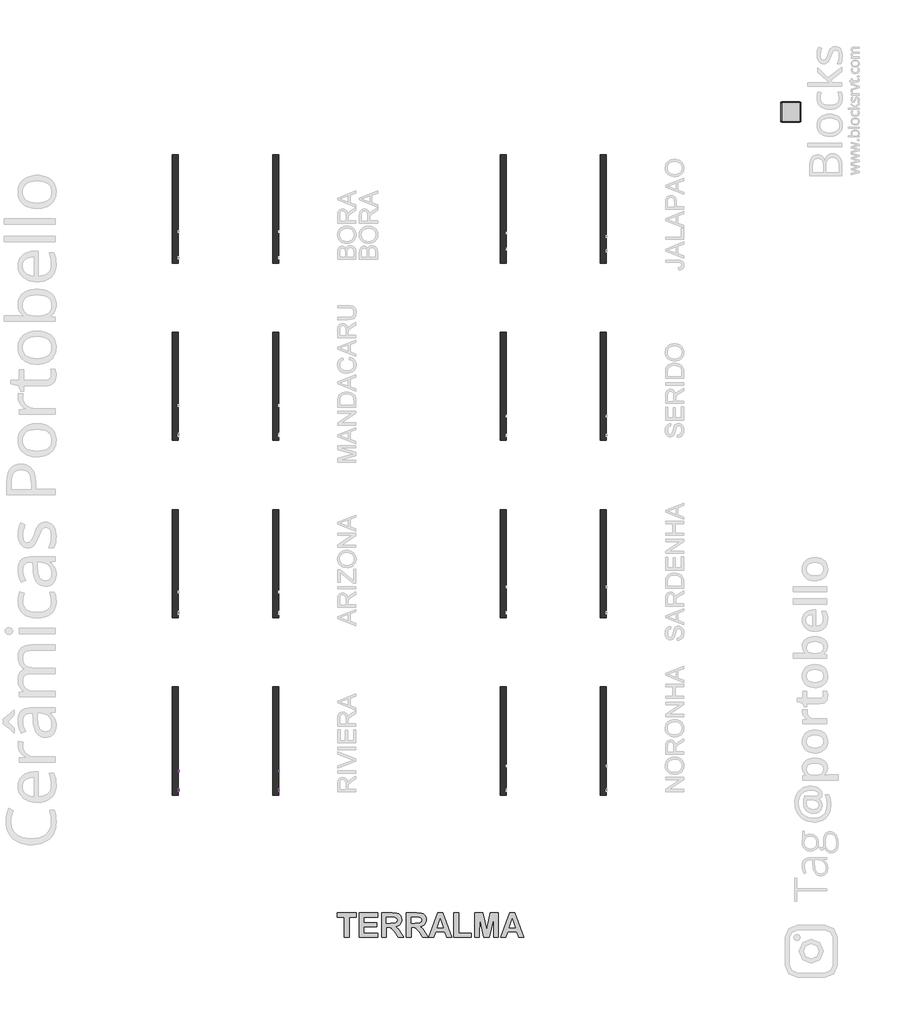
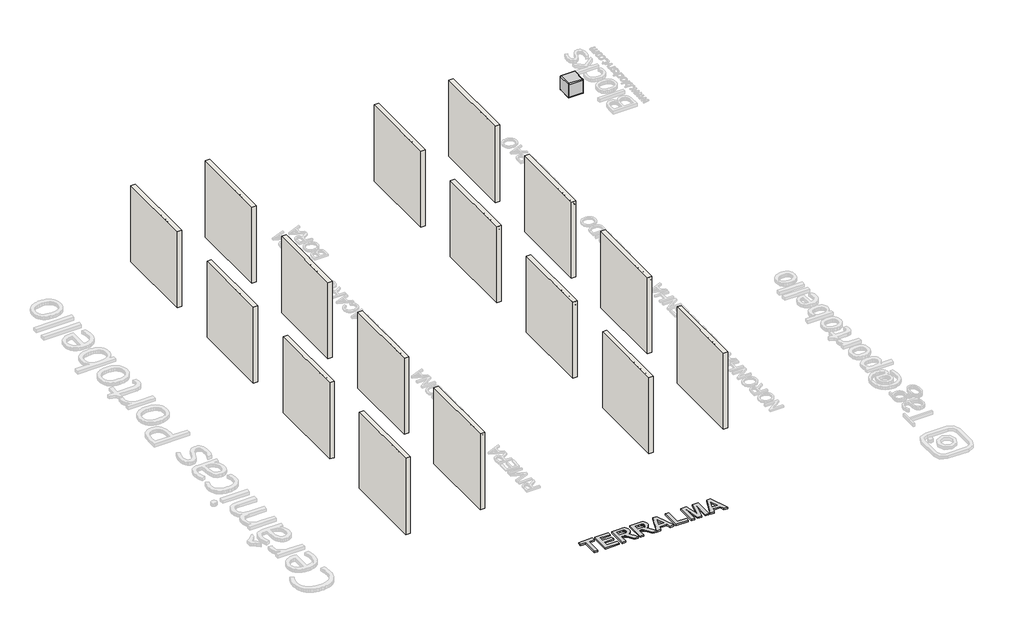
# One storey, part 1 of 11: 16 walls, 5 proxies, 1 furniture element.
"""IFC4 building model written with IfcOpenShell, lengths in millimetres."""

from ifc_helpers import new_model, si_unit, frame, origin, origin_with_axes, place, context, project, spatial, polyline, outline, extrude, transform, mapped, element, save
from components import branco_22256ad2

model = new_model("IFC4")

# Units and contexts
model_context = context("Model", 3, world=origin())
ifc_project = project(units=[si_unit("LENGTHUNIT", "METRE", prefix="MILLI")], contexts=[model_context])

# Site, building, storey
site = spatial("IfcSite", under=ifc_project)
building = spatial("IfcBuilding", under=site)
storey = spatial("IfcBuildingStorey", under=building, Name="PORTOBELLO - SHOWROOM", Elevation=0.0)

# Proxies
placement = place(None, origin())
element("IfcBuildingElementProxy", 1, Name="10mm Arial", ObjectType="10mm Arial", at=placement, inside=storey, context=model_context, shape_type="SweptSolid", body=[
    extrude(outline(polyline([(-7180.0509159, 2478.2261649), (-7180.0509159, 2578.6824751), (-7136.7634678, 2578.6824751), (-7116.6648481, 2575.9724111), (-7105.6774392, 2566.3829537), (-7101.5694236, 2551.1894273), (-7103.2708778, 2541.2934016), (-7108.3752405, 2533.0896331), (-7117.0357958, 2527.0747625), (-7129.4058279, 2523.7454305), (-7122.2689172, 2518.3743533), (-7112.0908486, 2505.4494326), (-7095.3399551, 2478.2261649), (-7109.9326076, 2478.2261649), (-7123.0046812, 2499.0482859), (-7132.4469857, 2512.8315979), (-7139.0811243, 2519.3431093), (-7145.0530754, 2521.7343422), (-7152.3371389, 2522.1758006), (-7167.4938771, 2522.1758006), (-7167.4938771, 2478.2261649), (-7180.0509159, 2478.2261649)]), holes=[polyline([(-7167.4938771, 2534.7328394), (-7139.3876927, 2534.7328394), (-7125.0525576, 2536.5109357), (-7116.9101028, 2542.2008439), (-7114.1264623, 2550.7234435), (-7119.4362258, 2561.7844288), (-7136.2239075, 2566.1254363), (-7167.4938771, 2566.1254363), (-7167.4938771, 2534.7328394)])]), frame((-24947.8341365, 0.0, 0.0), z_axis=(1.0, 0.0, 0.0), x_axis=(0.0, 1.0, 0.0)), (0.0, 0.0, 1.0), 20.0),
    extrude(outline(polyline([(-24927.8341365, -7068.6071968), (-24927.8341365, -7081.1642356), (-24947.8341365, -7081.1642356), (-24947.8341365, -7068.6071968), (-24927.8341365, -7068.6071968)])), frame((0.0, 0.0, 2566.1254363), z_axis=(0.0, 0.0, 1.0), x_axis=(1.0, 0.0, 0.0)), (0.0, 0.0, 1.0), 12.5570388),
    extrude(outline(polyline([(-24927.8341365, -7068.6071968), (-24927.8341365, -7081.1642356), (-24947.8341365, -7081.1642356), (-24947.8341365, -7068.6071968), (-24927.8341365, -7068.6071968)])), frame((0.0, 0.0, 2478.2261649), z_axis=(0.0, 0.0, 1.0), x_axis=(1.0, 0.0, 0.0)), (0.0, 0.0, 1.0), 73.7726028),
    extrude(outline(polyline([(-7031.6718445, 2478.2261649), (-7057.6197879, 2551.9987677), (-7044.3269851, 2551.9987677), (-7028.6061612, 2507.8038773), (-7023.8727462, 2492.9414447), (-7019.2374331, 2506.9700115), (-7003.4185073, 2551.9987677), (-6990.1257045, 2551.9987677), (-7015.7548168, 2478.2261649), (-7031.6718445, 2478.2261649)])), frame((-24947.8341365, 0.0, 0.0), z_axis=(1.0, 0.0, 0.0), x_axis=(0.0, 1.0, 0.0)), (0.0, 0.0, 1.0), 20.0),
    extrude(outline(polyline([(-24927.8341365, -6966.5812568), (-24927.8341365, -6979.1382956), (-24947.8341365, -6979.1382956), (-24947.8341365, -6966.5812568), (-24927.8341365, -6966.5812568)])), frame((0.0, 0.0, 2566.1254363), z_axis=(0.0, 0.0, 1.0), x_axis=(1.0, 0.0, 0.0)), (0.0, 0.0, 1.0), 12.5570388),
    extrude(outline(polyline([(-24927.8341365, -6966.5812568), (-24927.8341365, -6979.1382956), (-24947.8341365, -6979.1382956), (-24947.8341365, -6966.5812568), (-24927.8341365, -6966.5812568)])), frame((0.0, 0.0, 2478.2261649), z_axis=(0.0, 0.0, 1.0), x_axis=(1.0, 0.0, 0.0)), (0.0, 0.0, 1.0), 73.7726028),
    extrude(outline(polyline([(-6896.0950665, 2500.2009828), (-6883.7832824, 2498.6313529), (-6888.2193262, 2489.3545953), (-6895.2979889, 2482.4200197), (-6904.8598551, 2478.0974062), (-6916.7455092, 2476.6565351), (-6931.4791831, 2479.1428042), (-6942.8160799, 2486.6016117), (-6950.0449611, 2498.5485795), (-6952.4545882, 2514.4993297), (-6950.0204357, 2530.9865744), (-6942.7179781, 2543.3167526), (-6931.5343654, 2551.0054863), (-6917.4567477, 2553.5683975), (-6903.8175228, 2551.0116177), (-6892.9190186, 2543.3412781), (-6885.7729109, 2531.0356253), (-6883.390875, 2514.5729061), (-6883.4644514, 2511.1883917), (-6939.8975494, 2511.1883917), (-6937.72398, 2501.7890067), (-6932.6747996, 2494.8789566), (-6925.3876704, 2490.6299195), (-6916.5002545, 2489.2135739), (-6904.1884704, 2491.8377988), (-6896.0950665, 2500.2009828)]), holes=[polyline([(-6939.8975494, 2523.7454305), (-6895.9479137, 2523.7454305), (-6900.9756343, 2535.1252469), (-6908.296486, 2539.5398308), (-6917.5057987, 2541.0113588), (-6932.9691052, 2536.314732), (-6937.8343446, 2530.8240932), (-6939.8975494, 2523.7454305)])]), frame((-24947.8341365, 0.0, 0.0), z_axis=(1.0, 0.0, 0.0), x_axis=(0.0, 1.0, 0.0)), (0.0, 0.0, 1.0), 20.0),
    extrude(outline(polyline([(-6870.8338362, 2478.2261649), (-6870.8338362, 2551.9987677), (-6859.8464273, 2551.9987677), (-6859.8464273, 2541.0849352), (-6852.047329, 2551.1403764), (-6844.1991797, 2553.5683975), (-6831.59309, 2549.6933739), (-6835.7869448, 2538.4361848), (-6844.6161127, 2541.0113588), (-6851.7162352, 2538.5342867), (-6856.2411837, 2531.6671561), (-6858.2767974, 2517.0009272), (-6858.2767974, 2478.2261649), (-6870.8338362, 2478.2261649)])), frame((-24947.8341365, 0.0, 0.0), z_axis=(1.0, 0.0, 0.0), x_axis=(0.0, 1.0, 0.0)), (0.0, 0.0, 1.0), 20.0),
    extrude(outline(polyline([(-6776.6560454, 2487.643944), (-6788.8329395, 2479.1336072), (-6802.2851578, 2476.6565351), (-6812.7789917, 2478.1464572), (-6820.519842, 2482.6162234), (-6825.2931109, 2489.4036462), (-6826.8842005, 2497.846538), (-6824.4807048, 2507.7793519), (-6818.1653972, 2514.989839), (-6809.3730175, 2519.1101173), (-6798.5082359, 2520.9985782), (-6776.7296218, 2525.3150603), (-6776.6560454, 2528.1109635), (-6780.1141362, 2537.3815898), (-6793.9955501, 2541.0113588), (-6806.6997417, 2538.5956003), (-6812.7575319, 2530.0239499), (-6825.3145707, 2531.5935797), (-6819.8821799, 2543.8563129), (-6808.9438219, 2551.0422745), (-6792.3768694, 2553.5683975), (-6777.1588175, 2551.3365801), (-6768.5626415, 2545.732511), (-6764.7121433, 2537.2099115), (-6764.0990067, 2526.2225026), (-6764.0990067, 2510.5997805), (-6763.4613445, 2488.7843782), (-6760.959747, 2478.2261649), (-6773.5167857, 2478.2261649), (-6776.6560454, 2487.643944)]), holes=[polyline([(-6776.6560454, 2512.7580215), (-6796.9140806, 2508.9075233), (-6807.7175486, 2506.8719096), (-6812.6103791, 2503.5609717), (-6814.3271617, 2498.7294548), (-6810.5870281, 2491.9359006), (-6799.6118819, 2489.2135739), (-6786.9076904, 2492.2179435), (-6778.7161846, 2499.4897443), (-6776.7296218, 2509.2018289), (-6776.6560454, 2512.7580215)])]), frame((-24947.8341365, 0.0, 0.0), z_axis=(1.0, 0.0, 0.0), x_axis=(0.0, 1.0, 0.0)), (0.0, 0.0, 1.0), 20.0),
])
element("IfcBuildingElementProxy", 2, Name="10mm Arial", ObjectType="10mm Arial", at=placement, inside=storey, context=model_context, shape_type="SweptSolid", body=[
    extrude(outline(polyline([(-7180.0509159, 2478.2261649), (-7180.0509159, 2578.6824751), (-7136.7634678, 2578.6824751), (-7116.6648481, 2575.9724111), (-7105.6774392, 2566.3829537), (-7101.5694236, 2551.1894273), (-7103.2708778, 2541.2934016), (-7108.3752405, 2533.0896331), (-7117.0357958, 2527.0747625), (-7129.4058279, 2523.7454305), (-7122.2689172, 2518.3743533), (-7112.0908486, 2505.4494326), (-7095.3399551, 2478.2261649), (-7109.9326076, 2478.2261649), (-7123.0046812, 2499.0482859), (-7132.4469857, 2512.8315979), (-7139.0811243, 2519.3431093), (-7145.0530754, 2521.7343422), (-7152.3371389, 2522.1758006), (-7167.4938771, 2522.1758006), (-7167.4938771, 2478.2261649), (-7180.0509159, 2478.2261649)]), holes=[polyline([(-7167.4938771, 2534.7328394), (-7139.3876927, 2534.7328394), (-7125.0525576, 2536.5109357), (-7116.9101028, 2542.2008439), (-7114.1264623, 2550.7234435), (-7119.4362258, 2561.7844288), (-7136.2239075, 2566.1254363), (-7167.4938771, 2566.1254363), (-7167.4938771, 2534.7328394)])]), frame((-27447.8341365, 0.0, 0.0), z_axis=(1.0, 0.0, 0.0), x_axis=(0.0, 1.0, 0.0)), (0.0, 0.0, 1.0), 20.0),
    extrude(outline(polyline([(-27427.8341365, -7068.6071968), (-27427.8341365, -7081.1642356), (-27447.8341365, -7081.1642356), (-27447.8341365, -7068.6071968), (-27427.8341365, -7068.6071968)])), frame((0.0, 0.0, 2566.1254363), z_axis=(0.0, 0.0, 1.0), x_axis=(1.0, 0.0, 0.0)), (0.0, 0.0, 1.0), 12.5570388),
    extrude(outline(polyline([(-27427.8341365, -7068.6071968), (-27427.8341365, -7081.1642356), (-27447.8341365, -7081.1642356), (-27447.8341365, -7068.6071968), (-27427.8341365, -7068.6071968)])), frame((0.0, 0.0, 2478.2261649), z_axis=(0.0, 0.0, 1.0), x_axis=(1.0, 0.0, 0.0)), (0.0, 0.0, 1.0), 73.7726028),
    extrude(outline(polyline([(-7031.6718445, 2478.2261649), (-7057.6197879, 2551.9987677), (-7044.3269851, 2551.9987677), (-7028.6061612, 2507.8038773), (-7023.8727462, 2492.9414447), (-7019.2374331, 2506.9700115), (-7003.4185073, 2551.9987677), (-6990.1257045, 2551.9987677), (-7015.7548168, 2478.2261649), (-7031.6718445, 2478.2261649)])), frame((-27447.8341365, 0.0, 0.0), z_axis=(1.0, 0.0, 0.0), x_axis=(0.0, 1.0, 0.0)), (0.0, 0.0, 1.0), 20.0),
    extrude(outline(polyline([(-27427.8341365, -6966.5812568), (-27427.8341365, -6979.1382956), (-27447.8341365, -6979.1382956), (-27447.8341365, -6966.5812568), (-27427.8341365, -6966.5812568)])), frame((0.0, 0.0, 2566.1254363), z_axis=(0.0, 0.0, 1.0), x_axis=(1.0, 0.0, 0.0)), (0.0, 0.0, 1.0), 12.5570388),
    extrude(outline(polyline([(-27427.8341365, -6966.5812568), (-27427.8341365, -6979.1382956), (-27447.8341365, -6979.1382956), (-27447.8341365, -6966.5812568), (-27427.8341365, -6966.5812568)])), frame((0.0, 0.0, 2478.2261649), z_axis=(0.0, 0.0, 1.0), x_axis=(1.0, 0.0, 0.0)), (0.0, 0.0, 1.0), 73.7726028),
    extrude(outline(polyline([(-6896.0950665, 2500.2009828), (-6883.7832824, 2498.6313529), (-6888.2193262, 2489.3545953), (-6895.2979889, 2482.4200197), (-6904.8598551, 2478.0974062), (-6916.7455092, 2476.6565351), (-6931.4791831, 2479.1428042), (-6942.8160799, 2486.6016117), (-6950.0449611, 2498.5485795), (-6952.4545882, 2514.4993297), (-6950.0204357, 2530.9865744), (-6942.7179781, 2543.3167526), (-6931.5343654, 2551.0054863), (-6917.4567477, 2553.5683975), (-6903.8175228, 2551.0116177), (-6892.9190186, 2543.3412781), (-6885.7729109, 2531.0356253), (-6883.390875, 2514.5729061), (-6883.4644514, 2511.1883917), (-6939.8975494, 2511.1883917), (-6937.72398, 2501.7890067), (-6932.6747996, 2494.8789566), (-6925.3876704, 2490.6299195), (-6916.5002545, 2489.2135739), (-6904.1884704, 2491.8377988), (-6896.0950665, 2500.2009828)]), holes=[polyline([(-6939.8975494, 2523.7454305), (-6895.9479137, 2523.7454305), (-6900.9756343, 2535.1252469), (-6908.296486, 2539.5398308), (-6917.5057987, 2541.0113588), (-6932.9691052, 2536.314732), (-6937.8343446, 2530.8240932), (-6939.8975494, 2523.7454305)])]), frame((-27447.8341365, 0.0, 0.0), z_axis=(1.0, 0.0, 0.0), x_axis=(0.0, 1.0, 0.0)), (0.0, 0.0, 1.0), 20.0),
    extrude(outline(polyline([(-6870.8338362, 2478.2261649), (-6870.8338362, 2551.9987677), (-6859.8464273, 2551.9987677), (-6859.8464273, 2541.0849352), (-6852.047329, 2551.1403764), (-6844.1991797, 2553.5683975), (-6831.59309, 2549.6933739), (-6835.7869448, 2538.4361848), (-6844.6161127, 2541.0113588), (-6851.7162352, 2538.5342867), (-6856.2411837, 2531.6671561), (-6858.2767974, 2517.0009272), (-6858.2767974, 2478.2261649), (-6870.8338362, 2478.2261649)])), frame((-27447.8341365, 0.0, 0.0), z_axis=(1.0, 0.0, 0.0), x_axis=(0.0, 1.0, 0.0)), (0.0, 0.0, 1.0), 20.0),
    extrude(outline(polyline([(-6776.6560454, 2487.643944), (-6788.8329395, 2479.1336072), (-6802.2851578, 2476.6565351), (-6812.7789917, 2478.1464572), (-6820.519842, 2482.6162234), (-6825.2931109, 2489.4036462), (-6826.8842005, 2497.846538), (-6824.4807048, 2507.7793519), (-6818.1653972, 2514.989839), (-6809.3730175, 2519.1101173), (-6798.5082359, 2520.9985782), (-6776.7296218, 2525.3150603), (-6776.6560454, 2528.1109635), (-6780.1141362, 2537.3815898), (-6793.9955501, 2541.0113588), (-6806.6997417, 2538.5956003), (-6812.7575319, 2530.0239499), (-6825.3145707, 2531.5935797), (-6819.8821799, 2543.8563129), (-6808.9438219, 2551.0422745), (-6792.3768694, 2553.5683975), (-6777.1588175, 2551.3365801), (-6768.5626415, 2545.732511), (-6764.7121433, 2537.2099115), (-6764.0990067, 2526.2225026), (-6764.0990067, 2510.5997805), (-6763.4613445, 2488.7843782), (-6760.959747, 2478.2261649), (-6773.5167857, 2478.2261649), (-6776.6560454, 2487.643944)]), holes=[polyline([(-6776.6560454, 2512.7580215), (-6796.9140806, 2508.9075233), (-6807.7175486, 2506.8719096), (-6812.6103791, 2503.5609717), (-6814.3271617, 2498.7294548), (-6810.5870281, 2491.9359006), (-6799.6118819, 2489.2135739), (-6786.9076904, 2492.2179435), (-6778.7161846, 2499.4897443), (-6776.7296218, 2509.2018289), (-6776.6560454, 2512.7580215)])]), frame((-27447.8341365, 0.0, 0.0), z_axis=(1.0, 0.0, 0.0), x_axis=(0.0, 1.0, 0.0)), (0.0, 0.0, 1.0), 20.0),
])
element("IfcBuildingElementProxy", 3, Name="10mm Arial Narrow", ObjectType="10mm Arial Narrow", at=placement, inside=storey, context=model_context, shape_type="SweptSolid", body=[
    extrude(outline(polyline([(-6702.9158568, 2478.2261649), (-6702.9158568, 2578.9447687), (-6671.6189721, 2578.9447687), (-6655.3232706, 2577.066448), (-6643.8502844, 2567.5860048), (-6639.560606, 2550.566896), (-6641.3469144, 2538.4910704), (-6646.7058396, 2528.8646766), (-6656.4496284, 2522.5634182), (-6671.3905277, 2520.4629988), (-6693.1688951, 2520.4629988), (-6693.1688951, 2478.2261649), (-6702.9158568, 2478.2261649)]), holes=[polyline([(-6693.1688951, 2531.834454), (-6670.1975402, 2531.834454), (-6654.3333448, 2536.3652682), (-6649.3075677, 2550.033859), (-6651.7823821, 2560.1996354), (-6657.760011, 2565.9995852), (-6670.4259846, 2567.5733134), (-6693.1688951, 2567.5733134), (-6693.1688951, 2531.834454)])]), frame((-24947.8341365, 0.0, 0.0), z_axis=(1.0, 0.0, 0.0), x_axis=(0.0, 1.0, 0.0)), (0.0, 0.0, 1.0), 20.0),
    extrude(outline(polyline([(-6631.438138, 2514.7772711), (-6629.4836691, 2531.3680467), (-6623.6202625, 2543.3201315), (-6614.7616958, 2550.5446861), (-6603.8217466, 2552.9528709), (-6593.008711, 2550.5446861), (-6584.1247616, 2543.3201315), (-6578.1852068, 2531.558417), (-6576.2053553, 2515.5387525), (-6578.1503056, 2498.3768659), (-6583.9851567, 2486.2344108), (-6592.8342049, 2479.0098562), (-6603.8217466, 2476.6016713), (-6614.6823748, 2479.0162019), (-6623.5568057, 2486.2597935), (-6629.4678049, 2498.218224), (-6631.438138, 2514.7772711)]), holes=[polyline([(-6621.6911763, 2514.8026538), (-6620.3871394, 2502.2509024), (-6616.4750289, 2493.3796444), (-6610.6338321, 2488.1063858), (-6603.5425368, 2486.348633), (-6596.8224636, 2488.12225), (-6591.1303903, 2493.4431012), (-6587.2468353, 2502.3302234), (-6585.9523169, 2514.8026538), (-6587.2563538, 2527.3163312), (-6591.1684644, 2536.1748979), (-6597.0096611, 2541.4481564), (-6604.1009565, 2543.2059093), (-6610.8686222, 2541.4386379), (-6616.551177, 2536.1368238), (-6620.4061765, 2527.2687386), (-6621.6911763, 2514.8026538)])]), frame((-24947.8341365, 0.0, 0.0), z_axis=(1.0, 0.0, 0.0), x_axis=(0.0, 1.0, 0.0)), (0.0, 0.0, 1.0), 20.0),
    extrude(outline(polyline([(-6504.7276365, 2486.348633), (-6503.1031429, 2476.6016713), (-6510.4641295, 2476.6016713), (-6518.7388938, 2478.7211278), (-6523.053955, 2484.5210777), (-6524.2215598, 2499.1669029), (-6524.2215598, 2541.5814157), (-6532.3440278, 2541.5814157), (-6532.3440278, 2544.8304029), (-6533.9685214, 2539.9569221), (-6541.5325698, 2541.5814157), (-6547.6117295, 2539.2588975), (-6551.4825932, 2532.7736144), (-6553.4624447, 2517.3663078), (-6553.4624447, 2478.2261649), (-6563.2094064, 2478.2261649), (-6563.2094064, 2551.3283773), (-6553.4624447, 2551.3283773), (-6553.4624447, 2541.6321811), (-6547.2182974, 2550.7191922), (-6540.8218538, 2552.9528709), (-6532.3440278, 2551.3283773), (-6524.2215598, 2551.3283773), (-6524.2215598, 2567.5733134), (-6514.4745981, 2575.6957815), (-6514.4745981, 2551.3283773), (-6504.7276365, 2551.3283773), (-6504.7276365, 2541.5814157), (-6514.4745981, 2541.5814157), (-6514.4745981, 2496.9332241), (-6513.6115859, 2488.9376697), (-6508.9919322, 2486.348633), (-6504.7276365, 2486.348633)])), frame((-24947.8341365, 0.0, 0.0), z_axis=(1.0, 0.0, 0.0), x_axis=(0.0, 1.0, 0.0)), (0.0, 0.0, 1.0), 20.0),
    extrude(outline(polyline([(-6498.229662, 2514.7772711), (-6496.2751932, 2531.3680467), (-6490.4117865, 2543.3201315), (-6481.5532198, 2550.5446861), (-6470.6132707, 2552.9528709), (-6459.8002351, 2550.5446861), (-6450.9162857, 2543.3201315), (-6444.9767309, 2531.558417), (-6442.9968793, 2515.5387525), (-6444.9418297, 2498.3768659), (-6450.7766808, 2486.2344108), (-6459.6257289, 2479.0098562), (-6470.6132707, 2476.6016713), (-6481.4738989, 2479.0162019), (-6490.3483298, 2486.2597935), (-6496.259329, 2498.218224), (-6498.229662, 2514.7772711)]), holes=[polyline([(-6488.4827004, 2514.8026538), (-6487.1786635, 2502.2509024), (-6483.2665529, 2493.3796444), (-6477.4253562, 2488.1063858), (-6470.3340608, 2486.348633), (-6463.6139877, 2488.12225), (-6457.9219144, 2493.4431012), (-6454.0383593, 2502.3302234), (-6452.743841, 2514.8026538), (-6454.0478778, 2527.3163312), (-6457.9599884, 2536.1748979), (-6463.8011852, 2541.4481564), (-6470.8924805, 2543.2059093), (-6477.6601463, 2541.4386379), (-6483.3427011, 2536.1368238), (-6487.1977006, 2527.2687386), (-6488.4827004, 2514.8026538)])]), frame((-24947.8341365, 0.0, 0.0), z_axis=(1.0, 0.0, 0.0), x_axis=(0.0, 1.0, 0.0)), (0.0, 0.0, 1.0), 20.0),
    extrude(outline(polyline([(-6420.2539688, 2478.2261649), (-6430.0009305, 2478.2261649), (-6430.0009305, 2578.9447687), (-6420.2539688, 2578.9447687), (-6420.2539688, 2543.5358846), (-6412.8549081, 2550.6176614), (-6403.6536747, 2552.9528709), (-6390.7719481, 2548.752032), (-6381.4945666, 2536.0226016), (-6378.017135, 2515.3356908), (-6379.949394, 2498.8813473), (-6385.746171, 2486.6786082), (-6394.1192933, 2479.1209056), (-6403.7805883, 2476.6016713), (-6413.1214266, 2479.2160907), (-6420.2539688, 2486.9832008), (-6420.2539688, 2478.2261649)]), holes=[polyline([(-6420.2539688, 2515.3356908), (-6418.1725864, 2498.0881376), (-6412.283797, 2489.3564844), (-6403.8313537, 2486.348633), (-6397.8886261, 2488.1381142), (-6392.6502688, 2493.5065579), (-6387.7640966, 2514.9295674), (-6392.4725898, 2536.3652682), (-6397.7172928, 2541.495749), (-6404.0344154, 2543.2059093), (-6410.0120443, 2541.416428), (-6415.3043398, 2536.0479843), (-6420.2539688, 2515.3356908)])]), frame((-24947.8341365, 0.0, 0.0), z_axis=(1.0, 0.0, 0.0), x_axis=(0.0, 1.0, 0.0)), (0.0, 0.0, 1.0), 20.0),
    extrude(outline(polyline([(-6326.0333395, 2500.9690755), (-6316.2863778, 2499.3445819), (-6319.9859082, 2489.4580153), (-6325.8048951, 2482.3381644), (-6333.5085484, 2478.0357946), (-6342.862078, 2476.6016713), (-6354.455632, 2479.0162019), (-6363.5997542, 2486.2597935), (-6369.539309, 2498.0659277), (-6371.5191605, 2514.168086), (-6369.5297904, 2530.8350097), (-6363.5616801, 2543.0155389), (-6354.5476443, 2550.4685379), (-6343.4204976, 2552.9528709), (-6332.7375485, 2550.5542046), (-6323.9900311, 2543.3582056), (-6318.1551801, 2531.618701), (-6316.2102297, 2515.5895179), (-6316.2863778, 2512.3405307), (-6361.7721989, 2512.3405307), (-6355.7691873, 2492.8973728), (-6349.8391511, 2487.9858179), (-6342.7351644, 2486.348633), (-6332.5566966, 2490.0037436), (-6326.0333395, 2500.9690755)]), holes=[polyline([(-6361.1122484, 2522.0874924), (-6326.0333395, 2522.0874924), (-6330.2976352, 2536.3525769), (-6336.1229678, 2541.4925762), (-6343.3443495, 2543.2059093), (-6355.5534343, 2537.4947989), (-6361.1122484, 2522.0874924)])]), frame((-24947.8341365, 0.0, 0.0), z_axis=(1.0, 0.0, 0.0), x_axis=(0.0, 1.0, 0.0)), (0.0, 0.0, 1.0), 20.0),
    extrude(outline(polyline([(-24927.8341365, -6293.5434673), (-24927.8341365, -6303.290429), (-24947.8341365, -6303.290429), (-24947.8341365, -6293.5434673), (-24927.8341365, -6293.5434673)])), frame((0.0, 0.0, 2478.2261649), z_axis=(0.0, 0.0, 1.0), x_axis=(1.0, 0.0, 0.0)), (0.0, 0.0, 1.0), 100.7186038),
    extrude(outline(polyline([(-24927.8341365, -6267.5515696), (-24927.8341365, -6277.2985312), (-24947.8341365, -6277.2985312), (-24947.8341365, -6267.5515696), (-24927.8341365, -6267.5515696)])), frame((0.0, 0.0, 2478.2261649), z_axis=(0.0, 0.0, 1.0), x_axis=(1.0, 0.0, 0.0)), (0.0, 0.0, 1.0), 100.7186038),
    extrude(outline(polyline([(-6256.1801143, 2514.7772711), (-6254.2256454, 2531.3680467), (-6248.3622388, 2543.3201315), (-6239.5036721, 2550.5446861), (-6228.563723, 2552.9528709), (-6217.7506874, 2550.5446861), (-6208.8667379, 2543.3201315), (-6202.9271832, 2531.558417), (-6200.9473316, 2515.5387525), (-6202.892282, 2498.3768659), (-6208.727133, 2486.2344108), (-6217.5761812, 2479.0098562), (-6228.563723, 2476.6016713), (-6239.4243511, 2479.0162019), (-6248.298782, 2486.2597935), (-6254.2097812, 2498.218224), (-6256.1801143, 2514.7772711)]), holes=[polyline([(-6246.4331527, 2514.8026538), (-6245.1291158, 2502.2509024), (-6241.2170052, 2493.3796444), (-6235.3758085, 2488.1063858), (-6228.2845131, 2486.348633), (-6221.5644399, 2488.12225), (-6215.8723666, 2493.4431012), (-6211.9888116, 2502.3302234), (-6210.6942933, 2514.8026538), (-6211.9983301, 2527.3163312), (-6215.9104407, 2536.1748979), (-6221.7516374, 2541.4481564), (-6228.8429328, 2543.2059093), (-6235.6105985, 2541.4386379), (-6241.2931533, 2536.1368238), (-6245.1481528, 2527.2687386), (-6246.4331527, 2514.8026538)])]), frame((-24947.8341365, 0.0, 0.0), z_axis=(1.0, 0.0, 0.0), x_axis=(0.0, 1.0, 0.0)), (0.0, 0.0, 1.0), 20.0),
])
element("IfcBuildingElementProxy", 4, Name="10mm Arial Narrow", ObjectType="10mm Arial Narrow", at=placement, inside=storey, context=model_context, shape_type="SweptSolid", body=[
    extrude(outline(polyline([(-6702.9158568, 2478.2261649), (-6702.9158568, 2578.9447687), (-6671.6189721, 2578.9447687), (-6655.3232706, 2577.066448), (-6643.8502844, 2567.5860048), (-6639.560606, 2550.566896), (-6641.3469144, 2538.4910704), (-6646.7058396, 2528.8646766), (-6656.4496284, 2522.5634182), (-6671.3905277, 2520.4629988), (-6693.1688951, 2520.4629988), (-6693.1688951, 2478.2261649), (-6702.9158568, 2478.2261649)]), holes=[polyline([(-6693.1688951, 2531.834454), (-6670.1975402, 2531.834454), (-6654.3333448, 2536.3652682), (-6649.3075677, 2550.033859), (-6651.7823821, 2560.1996354), (-6657.760011, 2565.9995852), (-6670.4259846, 2567.5733134), (-6693.1688951, 2567.5733134), (-6693.1688951, 2531.834454)])]), frame((-27447.8341365, 0.0, 0.0), z_axis=(1.0, 0.0, 0.0), x_axis=(0.0, 1.0, 0.0)), (0.0, 0.0, 1.0), 20.0),
    extrude(outline(polyline([(-6631.438138, 2514.7772711), (-6629.4836691, 2531.3680467), (-6623.6202625, 2543.3201315), (-6614.7616958, 2550.5446861), (-6603.8217466, 2552.9528709), (-6593.008711, 2550.5446861), (-6584.1247616, 2543.3201315), (-6578.1852068, 2531.558417), (-6576.2053553, 2515.5387525), (-6578.1503056, 2498.3768659), (-6583.9851567, 2486.2344108), (-6592.8342049, 2479.0098562), (-6603.8217466, 2476.6016713), (-6614.6823748, 2479.0162019), (-6623.5568057, 2486.2597935), (-6629.4678049, 2498.218224), (-6631.438138, 2514.7772711)]), holes=[polyline([(-6621.6911763, 2514.8026538), (-6620.3871395, 2502.2509024), (-6616.4750289, 2493.3796444), (-6610.6338321, 2488.1063858), (-6603.5425368, 2486.348633), (-6596.8224636, 2488.12225), (-6591.1303903, 2493.4431012), (-6587.2468353, 2502.3302234), (-6585.9523169, 2514.8026538), (-6587.2563538, 2527.3163312), (-6591.1684644, 2536.1748979), (-6597.0096611, 2541.4481564), (-6604.1009565, 2543.2059093), (-6610.8686222, 2541.4386379), (-6616.551177, 2536.1368238), (-6620.4061765, 2527.2687386), (-6621.6911763, 2514.8026538)])]), frame((-27447.8341365, 0.0, 0.0), z_axis=(1.0, 0.0, 0.0), x_axis=(0.0, 1.0, 0.0)), (0.0, 0.0, 1.0), 20.0),
    extrude(outline(polyline([(-6504.7276365, 2486.348633), (-6503.1031429, 2476.6016713), (-6510.4641295, 2476.6016713), (-6518.7388938, 2478.7211278), (-6523.053955, 2484.5210777), (-6524.2215598, 2499.1669029), (-6524.2215598, 2541.5814157), (-6532.3440278, 2541.5814157), (-6532.3440278, 2544.8304029), (-6533.9685214, 2539.9569221), (-6541.5325698, 2541.5814157), (-6547.6117295, 2539.2588975), (-6551.4825932, 2532.7736144), (-6553.4624447, 2517.3663078), (-6553.4624447, 2478.2261649), (-6563.2094064, 2478.2261649), (-6563.2094064, 2551.3283773), (-6553.4624447, 2551.3283773), (-6553.4624447, 2541.6321811), (-6547.2182974, 2550.7191922), (-6540.8218538, 2552.9528709), (-6532.3440278, 2551.3283773), (-6524.2215598, 2551.3283773), (-6524.2215598, 2567.5733134), (-6514.4745981, 2575.6957815), (-6514.4745981, 2551.3283773), (-6504.7276365, 2551.3283773), (-6504.7276365, 2541.5814157), (-6514.4745981, 2541.5814157), (-6514.4745981, 2496.9332241), (-6513.6115859, 2488.9376697), (-6508.9919322, 2486.348633), (-6504.7276365, 2486.348633)])), frame((-27447.8341365, 0.0, 0.0), z_axis=(1.0, 0.0, 0.0), x_axis=(0.0, 1.0, 0.0)), (0.0, 0.0, 1.0), 20.0),
    extrude(outline(polyline([(-6498.229662, 2514.7772711), (-6496.2751932, 2531.3680467), (-6490.4117865, 2543.3201315), (-6481.5532198, 2550.5446861), (-6470.6132707, 2552.9528709), (-6459.8002351, 2550.5446861), (-6450.9162857, 2543.3201315), (-6444.9767309, 2531.558417), (-6442.9968793, 2515.5387525), (-6444.9418297, 2498.3768659), (-6450.7766808, 2486.2344108), (-6459.6257289, 2479.0098562), (-6470.6132707, 2476.6016713), (-6481.4738989, 2479.0162019), (-6490.3483298, 2486.2597935), (-6496.259329, 2498.218224), (-6498.229662, 2514.7772711)]), holes=[polyline([(-6488.4827004, 2514.8026538), (-6487.1786635, 2502.2509024), (-6483.2665529, 2493.3796444), (-6477.4253562, 2488.1063858), (-6470.3340608, 2486.348633), (-6463.6139877, 2488.12225), (-6457.9219144, 2493.4431012), (-6454.0383593, 2502.3302234), (-6452.743841, 2514.8026538), (-6454.0478778, 2527.3163312), (-6457.9599884, 2536.1748979), (-6463.8011852, 2541.4481564), (-6470.8924805, 2543.2059093), (-6477.6601463, 2541.4386379), (-6483.3427011, 2536.1368238), (-6487.1977006, 2527.2687386), (-6488.4827004, 2514.8026538)])]), frame((-27447.8341365, 0.0, 0.0), z_axis=(1.0, 0.0, 0.0), x_axis=(0.0, 1.0, 0.0)), (0.0, 0.0, 1.0), 20.0),
    extrude(outline(polyline([(-6420.2539688, 2478.2261649), (-6430.0009305, 2478.2261649), (-6430.0009305, 2578.9447687), (-6420.2539688, 2578.9447687), (-6420.2539688, 2543.5358846), (-6412.8549081, 2550.6176614), (-6403.6536747, 2552.9528709), (-6390.7719481, 2548.752032), (-6381.4945666, 2536.0226016), (-6378.017135, 2515.3356908), (-6379.949394, 2498.8813473), (-6385.746171, 2486.6786082), (-6394.1192933, 2479.1209056), (-6403.7805883, 2476.6016713), (-6413.1214266, 2479.2160907), (-6420.2539688, 2486.9832008), (-6420.2539688, 2478.2261649)]), holes=[polyline([(-6420.2539688, 2515.3356908), (-6418.1725864, 2498.0881376), (-6412.283797, 2489.3564844), (-6403.8313537, 2486.348633), (-6397.8886261, 2488.1381142), (-6392.6502688, 2493.5065579), (-6387.7640966, 2514.9295674), (-6392.4725898, 2536.3652682), (-6397.7172928, 2541.495749), (-6404.0344154, 2543.2059093), (-6410.0120443, 2541.416428), (-6415.3043398, 2536.0479843), (-6420.2539688, 2515.3356908)])]), frame((-27447.8341365, 0.0, 0.0), z_axis=(1.0, 0.0, 0.0), x_axis=(0.0, 1.0, 0.0)), (0.0, 0.0, 1.0), 20.0),
    extrude(outline(polyline([(-6326.0333395, 2500.9690755), (-6316.2863778, 2499.3445819), (-6319.9859082, 2489.4580153), (-6325.8048951, 2482.3381644), (-6333.5085484, 2478.0357946), (-6342.862078, 2476.6016713), (-6354.455632, 2479.0162019), (-6363.5997542, 2486.2597935), (-6369.539309, 2498.0659277), (-6371.5191605, 2514.168086), (-6369.5297904, 2530.8350097), (-6363.5616801, 2543.0155389), (-6354.5476443, 2550.4685379), (-6343.4204976, 2552.9528709), (-6332.7375485, 2550.5542046), (-6323.9900311, 2543.3582056), (-6318.1551801, 2531.618701), (-6316.2102297, 2515.5895179), (-6316.2863778, 2512.3405307), (-6361.7721989, 2512.3405307), (-6355.7691873, 2492.8973728), (-6349.8391511, 2487.9858179), (-6342.7351644, 2486.348633), (-6332.5566966, 2490.0037436), (-6326.0333395, 2500.9690755)]), holes=[polyline([(-6361.1122484, 2522.0874924), (-6326.0333395, 2522.0874924), (-6330.2976352, 2536.3525769), (-6336.1229678, 2541.4925762), (-6343.3443495, 2543.2059093), (-6355.5534343, 2537.4947989), (-6361.1122484, 2522.0874924)])]), frame((-27447.8341365, 0.0, 0.0), z_axis=(1.0, 0.0, 0.0), x_axis=(0.0, 1.0, 0.0)), (0.0, 0.0, 1.0), 20.0),
    extrude(outline(polyline([(-27427.8341365, -6293.5434673), (-27427.8341365, -6303.290429), (-27447.8341365, -6303.290429), (-27447.8341365, -6293.5434673), (-27427.8341365, -6293.5434673)])), frame((0.0, 0.0, 2478.2261649), z_axis=(0.0, 0.0, 1.0), x_axis=(1.0, 0.0, 0.0)), (0.0, 0.0, 1.0), 100.7186038),
    extrude(outline(polyline([(-27427.8341365, -6267.5515696), (-27427.8341365, -6277.2985312), (-27447.8341365, -6277.2985312), (-27447.8341365, -6267.5515696), (-27427.8341365, -6267.5515696)])), frame((0.0, 0.0, 2478.2261649), z_axis=(0.0, 0.0, 1.0), x_axis=(1.0, 0.0, 0.0)), (0.0, 0.0, 1.0), 100.7186038),
    extrude(outline(polyline([(-6256.1801143, 2514.7772711), (-6254.2256454, 2531.3680467), (-6248.3622388, 2543.3201315), (-6239.5036721, 2550.5446861), (-6228.563723, 2552.9528709), (-6217.7506874, 2550.5446861), (-6208.8667379, 2543.3201315), (-6202.9271832, 2531.558417), (-6200.9473316, 2515.5387525), (-6202.892282, 2498.3768659), (-6208.727133, 2486.2344108), (-6217.5761812, 2479.0098562), (-6228.563723, 2476.6016713), (-6239.4243511, 2479.0162019), (-6248.298782, 2486.2597935), (-6254.2097812, 2498.218224), (-6256.1801143, 2514.7772711)]), holes=[polyline([(-6246.4331527, 2514.8026538), (-6245.1291158, 2502.2509024), (-6241.2170052, 2493.3796444), (-6235.3758085, 2488.1063858), (-6228.2845131, 2486.348633), (-6221.5644399, 2488.12225), (-6215.8723666, 2493.4431012), (-6211.9888116, 2502.3302234), (-6210.6942933, 2514.8026538), (-6211.9983301, 2527.3163312), (-6215.9104407, 2536.1748979), (-6221.7516374, 2541.4481564), (-6228.8429328, 2543.2059093), (-6235.6105986, 2541.4386379), (-6241.2931533, 2536.1368238), (-6245.1481528, 2527.2687386), (-6246.4331527, 2514.8026538)])]), frame((-27447.8341365, 0.0, 0.0), z_axis=(1.0, 0.0, 0.0), x_axis=(0.0, 1.0, 0.0)), (0.0, 0.0, 1.0), 20.0),
])
element("IfcBuildingElementProxy", 5, Name="600mm Arial", ObjectType="600mm Arial", at=placement, inside=storey, context=model_context, shape_type="SweptSolid", body=[
    extrude(outline(polyline([(-23310.274572, -10814.75725), (-23310.274572, -10309.4859281), (-23485.1761834, -10309.4859281), (-23485.1761834, -10202.6016101), (-23018.7718863, -10202.6016101), (-23018.7718863, -10309.4859281), (-23193.6734977, -10309.4859281), (-23193.6734977, -10814.75725), (-23310.274572, -10814.75725)])), origin_with_axes(), (0.0, 0.0, 1.0), 50.0),
    extrude(outline(polyline([(-22941.0378367, -10814.75725), (-22941.0378367, -10202.6016101), (-22484.3502958, -10202.6016101), (-22484.3502958, -10309.4859281), (-22824.4367625, -10309.4859281), (-22824.4367625, -10445.5205148), (-22503.7838082, -10445.5205148), (-22503.7838082, -10552.4048329), (-22824.4367625, -10552.4048329), (-22824.4367625, -10707.8729319), (-22474.6335396, -10707.8729319), (-22474.6335396, -10814.75725), (-22941.0378367, -10814.75725)])), origin_with_axes(), (0.0, 0.0, 1.0), 50.0),
    extrude(outline(polyline([(-22377.4659777, -10814.75725), (-22377.4659777, -10202.6016101), (-22119.9719387, -10202.6016101), (-22036.0890044, -10206.7388227), (-22004.1110079, -10211.9103384), (-21978.7753253, -10219.1504604), (-21957.8615258, -10229.038019), (-21939.149179, -10242.1518442), (-21922.6382846, -10258.4919362), (-21908.3288429, -10278.0582948), (-21896.7712169, -10300.0063974), (-21888.5157697, -10323.4917212), (-21883.5625015, -10348.5142662), (-21881.911412, -10375.0740324), (-21884.2979005, -10408.1812222), (-21891.4573659, -10438.2709037), (-21903.3898081, -10465.343077), (-21920.0952274, -10489.397742), (-21941.5546455, -10509.8560685), (-21967.7490844, -10526.1392263), (-21998.6785441, -10538.2472155), (-22034.3430248, -10546.180036), (-22000.5241585, -10570.5478386), (-21973.1578256, -10597.193006), (-21944.8425908, -10635.7943382), (-21908.1770186, -10696.0306353), (-21833.3276311, -10814.75725), (-21969.514042, -10814.75725), (-22058.1794423, -10674.9270555), (-22101.0128773, -10621.2381819), (-22127.7908909, -10591.9550671), (-22147.1105351, -10577.5507351), (-22167.5688616, -10568.4982103), (-22194.726436, -10563.7157444), (-22234.1438239, -10562.1215891), (-22260.8649034, -10562.1215891), (-22260.8649034, -10814.75725), (-22377.4659777, -10814.75725)]), holes=[polyline([(-22260.8649034, -10455.237271), (-22164.7601117, -10455.237271), (-22088.9048881, -10453.4723133), (-22048.0831253, -10448.1774403), (-22027.3211502, -10438.5745524), (-22011.6452896, -10423.8855499), (-22001.7956871, -10404.5089716), (-21998.5124863, -10380.8433564), (-22002.8394793, -10354.634684), (-22015.8204583, -10334.0055551), (-22036.6963016, -10319.4493988), (-22064.7078878, -10311.4596442), (-22159.4462607, -10309.4859281), (-22260.8649034, -10309.4859281), (-22260.8649034, -10455.237271)])]), origin_with_axes(), (0.0, 0.0, 1.0), 50.0),
    extrude(outline(polyline([(-21765.3103377, -10814.75725), (-21765.3103377, -10202.6016101), (-21507.8162987, -10202.6016101), (-21423.9333644, -10206.7388227), (-21391.955368, -10211.9103384), (-21366.6196853, -10219.1504604), (-21345.7058859, -10229.038019), (-21326.993539, -10242.1518442), (-21310.4826447, -10258.4919362), (-21296.1732029, -10278.0582948), (-21284.6155769, -10300.0063974), (-21276.3601298, -10323.4917212), (-21271.4068615, -10348.5142662), (-21269.755772, -10375.0740324), (-21272.1422605, -10408.1812222), (-21279.3017259, -10438.2709037), (-21291.2341682, -10465.343077), (-21307.9395874, -10489.397742), (-21329.3990055, -10509.8560685), (-21355.5934444, -10526.1392263), (-21386.5229042, -10538.2472155), (-21422.1873848, -10546.180036), (-21388.3685185, -10570.5478386), (-21361.0021856, -10597.193006), (-21332.6869508, -10635.7943382), (-21296.0213786, -10696.0306353), (-21221.1719911, -10814.75725), (-21357.3584021, -10814.75725), (-21446.0238023, -10674.9270555), (-21488.8572373, -10621.2381819), (-21515.6352509, -10591.9550671), (-21534.9548951, -10577.5507351), (-21555.4132216, -10568.4982103), (-21582.570796, -10563.7157444), (-21621.9881839, -10562.1215891), (-21648.7092635, -10562.1215891), (-21648.7092635, -10814.75725), (-21765.3103377, -10814.75725)]), holes=[polyline([(-21648.7092635, -10455.237271), (-21552.6044718, -10455.237271), (-21476.7492481, -10453.4723133), (-21435.9274853, -10448.1774403), (-21415.1655102, -10438.5745524), (-21399.4896496, -10423.8855499), (-21389.6400471, -10404.5089716), (-21386.3568463, -10380.8433564), (-21390.6838393, -10354.634684), (-21403.6648183, -10334.0055551), (-21424.5406617, -10319.4493988), (-21452.5522479, -10311.4596442), (-21547.2906207, -10309.4859281), (-21648.7092635, -10309.4859281), (-21648.7092635, -10455.237271)])]), origin_with_axes(), (0.0, 0.0, 1.0), 50.0),
    extrude(outline(polyline([(-20638.1666197, -10814.75725), (-20760.6888423, -10814.75725), (-20808.665326, -10678.7226634), (-21039.8937584, -10678.7226634), (-21087.2629449, -10814.75725), (-21211.4552349, -10814.75725), (-20987.9698425, -10202.6016101), (-20863.7775525, -10202.6016101), (-20638.1666197, -10814.75725)]), holes=[polyline([(-20846.0141076, -10571.8383453), (-20924.8109273, -10348.3529529), (-21002.5449768, -10571.8383453), (-20846.0141076, -10571.8383453)])]), origin_with_axes(), (0.0, 0.0, 1.0), 50.0),
    extrude(outline(polyline([(-20579.8660826, -10814.75725), (-20579.8660826, -10202.6016101), (-20463.2650083, -10202.6016101), (-20463.2650083, -10707.8729319), (-20152.3288102, -10707.8729319), (-20152.3288102, -10814.75725), (-20579.8660826, -10814.75725)])), origin_with_axes(), (0.0, 0.0, 1.0), 50.0),
    extrude(outline(polyline([(-20064.8780045, -10814.75725), (-20064.8780045, -10202.6016101), (-19865.0772053, -10202.6016101), (-19768.5169407, -10620.1184776), (-19671.956676, -10202.6016101), (-19472.1558769, -10202.6016101), (-19472.1558769, -10814.75725), (-19588.7569512, -10814.75725), (-19593.6153293, -10332.8668727), (-19700.1959987, -10814.75725), (-19836.6860583, -10814.75725), (-19943.4185521, -10332.8668727), (-19948.2769302, -10814.75725), (-20064.8780045, -10814.75725)])), origin_with_axes(), (0.0, 0.0, 1.0), 50.0),
    extrude(outline(polyline([(-18840.5667245, -10814.75725), (-18963.0889471, -10814.75725), (-19011.0654308, -10678.7226634), (-19242.2938633, -10678.7226634), (-19289.6630497, -10814.75725), (-19413.8553397, -10814.75725), (-19190.3699474, -10202.6016101), (-19066.1776573, -10202.6016101), (-18840.5667245, -10814.75725)]), holes=[polyline([(-19048.4142124, -10571.8383453), (-19127.2110321, -10348.3529529), (-19204.9450817, -10571.8383453), (-19048.4142124, -10571.8383453)])]), origin_with_axes(), (0.0, 0.0, 1.0), 50.0),
])

# Furniture
branco_shape = branco_22256ad2(model_context)
element("IfcFurniture", 6, ObjectType="Blks_Mob_Blocks Revit_Cubo : Branco", at=placement, inside=storey, context=model_context, shape_type="MappedRepresentation", body=[
    mapped(branco_shape, transform((-12195.7625043, 9745.1694969, 0.0), x_axis=(1.0, 0.0, 0.0), y_axis=(0.0, 1.0, 0.0), z_axis=(0.0, 0.0, 1.0))),
])

# Walls
element("IfcWall", 7, ObjectType="PORTOBELLO - TERRALMA - ARIZONA - 09x37 - COMPOSIÇÃO 02", at=placement, inside=storey, context=model_context, shape_type="SweptSolid", body=[
    extrude(outline(polyline([(-24947.8341365, -156.2484317), (-24947.8341365, -2856.2484317), (-25097.8341365, -2856.2484317), (-25097.8341365, -156.2484317), (-24947.8341365, -156.2484317)])), origin_with_axes(), (0.0, 0.0, 1.0), 2700.0),
])
element("IfcWall", 8, ObjectType="PORTOBELLO - TERRALMA - BORA BORA - 09x37 - COMPOSIÇÃO 02", at=placement, inside=storey, context=model_context, shape_type="SweptSolid", body=[
    extrude(outline(polyline([(-24947.8341365, 8683.7515683), (-24947.8341365, 5983.7515683), (-25097.8341365, 5983.7515683), (-25097.8341365, 8683.7515683), (-24947.8341365, 8683.7515683)])), origin_with_axes(), (0.0, 0.0, 1.0), 2700.0),
])
element("IfcWall", 9, ObjectType="PORTOBELLO - TERRALMA - JALAPAO - 09x37 - COMPOSIÇÃO 02", at=placement, inside=storey, context=model_context, shape_type="SweptSolid", body=[
    extrude(outline(polyline([(-16783.2092306, 8683.7515683), (-16783.2092306, 5983.7515683), (-16933.2092306, 5983.7515683), (-16933.2092306, 8683.7515683), (-16783.2092306, 8683.7515683)])), origin_with_axes(), (0.0, 0.0, 1.0), 2700.0),
])
element("IfcWall", 10, ObjectType="PORTOBELLO - TERRALMA - MANDACARU - 09x37 - COMPOSIÇÃO 02", at=placement, inside=storey, context=model_context, shape_type="SweptSolid", body=[
    extrude(outline(polyline([(-24947.8341365, 4263.7515683), (-24947.8341365, 1563.7515683), (-25097.8341365, 1563.7515683), (-25097.8341365, 4263.7515683), (-24947.8341365, 4263.7515683)])), origin_with_axes(), (0.0, 0.0, 1.0), 2700.0),
])
element("IfcWall", 11, ObjectType="PORTOBELLO - TERRALMA - NORONHA - 09x37 - COMPOSIÇÃO 02", at=placement, inside=storey, context=model_context, shape_type="SweptSolid", body=[
    extrude(outline(polyline([(-16783.2092306, -4576.2484317), (-16783.2092306, -7276.2484317), (-16933.2092306, -7276.2484317), (-16933.2092306, -4576.2484317), (-16783.2092306, -4576.2484317)])), origin_with_axes(), (0.0, 0.0, 1.0), 2700.0),
])
element("IfcWall", 12, ObjectType="PORTOBELLO - TERRALMA - SARDENHA - 09x37 - COMPOSIÇÃO 02", at=placement, inside=storey, context=model_context, shape_type="SweptSolid", body=[
    extrude(outline(polyline([(-16783.2092306, -156.2484317), (-16783.2092306, -2856.2484317), (-16933.2092306, -2856.2484317), (-16933.2092306, -156.2484317), (-16783.2092306, -156.2484317)])), origin_with_axes(), (0.0, 0.0, 1.0), 2700.0),
])
element("IfcWall", 13, ObjectType="PORTOBELLO - TERRALMA - SERIDO - 09x37 - COMPOSIÇÃO 02", at=placement, inside=storey, context=model_context, shape_type="SweptSolid", body=[
    extrude(outline(polyline([(-16783.2092306, 4263.7515683), (-16783.2092306, 1563.7515683), (-16933.2092306, 1563.7515683), (-16933.2092306, 4263.7515683), (-16783.2092306, 4263.7515683)])), origin_with_axes(), (0.0, 0.0, 1.0), 2700.0),
])
element("IfcWall", 14, ObjectType="PORTOBELLO - TERRALMA - RIVIERA - 09x37 - COMPOSIÇÃO 02", at=placement, inside=storey, context=model_context, shape_type="SweptSolid", body=[
    extrude(outline(polyline([(-24947.8341365, -4576.2484317), (-24947.8341365, -7276.2484317), (-25097.8341365, -7276.2484317), (-25097.8341365, -4576.2484317), (-24947.8341365, -4576.2484317)])), origin_with_axes(), (0.0, 0.0, 1.0), 2700.0),
])
element("IfcWall", 15, ObjectType="PORTOBELLO - TERRALMA - ARIZONA - 09x37 - COMPOSIÇÃO 01", at=placement, inside=storey, context=model_context, shape_type="SweptSolid", body=[
    extrude(outline(polyline([(-27447.8341365, -156.2484317), (-27447.8341365, -2856.2484317), (-27597.8341365, -2856.2484317), (-27597.8341365, -156.2484317), (-27447.8341365, -156.2484317)])), origin_with_axes(), (0.0, 0.0, 1.0), 2700.0),
])
element("IfcWall", 16, ObjectType="PORTOBELLO - TERRALMA - BORA BORA - 09x37 - COMPOSIÇÃO 01", at=placement, inside=storey, context=model_context, shape_type="SweptSolid", body=[
    extrude(outline(polyline([(-27447.8341365, 8683.7515683), (-27447.8341365, 5983.7515683), (-27597.8341365, 5983.7515683), (-27597.8341365, 8683.7515683), (-27447.8341365, 8683.7515683)])), origin_with_axes(), (0.0, 0.0, 1.0), 2700.0),
])
element("IfcWall", 17, ObjectType="PORTOBELLO - TERRALMA - JALAPAO - 09x37 - COMPOSIÇÃO 01", at=placement, inside=storey, context=model_context, shape_type="SweptSolid", body=[
    extrude(outline(polyline([(-19283.2092306, 8683.7515683), (-19283.2092306, 5983.7515683), (-19433.2092306, 5983.7515683), (-19433.2092306, 8683.7515683), (-19283.2092306, 8683.7515683)])), origin_with_axes(), (0.0, 0.0, 1.0), 2700.0),
])
element("IfcWall", 18, ObjectType="PORTOBELLO - TERRALMA - MANDACARU - 09x37 - COMPOSIÇÃO 01", at=placement, inside=storey, context=model_context, shape_type="SweptSolid", body=[
    extrude(outline(polyline([(-27447.8341365, 4263.7515683), (-27447.8341365, 1563.7515683), (-27597.8341365, 1563.7515683), (-27597.8341365, 4263.7515683), (-27447.8341365, 4263.7515683)])), origin_with_axes(), (0.0, 0.0, 1.0), 2700.0),
])
element("IfcWall", 19, ObjectType="PORTOBELLO - TERRALMA - NORONHA - 09x37 - COMPOSIÇÃO 01", at=placement, inside=storey, context=model_context, shape_type="SweptSolid", body=[
    extrude(outline(polyline([(-19283.2092306, -4576.2484317), (-19283.2092306, -7276.2484317), (-19433.2092306, -7276.2484317), (-19433.2092306, -4576.2484317), (-19283.2092306, -4576.2484317)])), origin_with_axes(), (0.0, 0.0, 1.0), 2700.0),
])
element("IfcWall", 20, ObjectType="PORTOBELLO - TERRALMA - SARDENHA - 09x37 - COMPOSIÇÃO 01", at=placement, inside=storey, context=model_context, shape_type="SweptSolid", body=[
    extrude(outline(polyline([(-19283.2092306, -156.2484317), (-19283.2092306, -2856.2484317), (-19433.2092306, -2856.2484317), (-19433.2092306, -156.2484317), (-19283.2092306, -156.2484317)])), origin_with_axes(), (0.0, 0.0, 1.0), 2700.0),
])
element("IfcWall", 21, ObjectType="PORTOBELLO - TERRALMA - SERIDO - 09x37 - COMPOSIÇÃO 01", at=placement, inside=storey, context=model_context, shape_type="SweptSolid", body=[
    extrude(outline(polyline([(-19283.2092306, 4263.7515683), (-19283.2092306, 1563.7515683), (-19433.2092306, 1563.7515683), (-19433.2092306, 4263.7515683), (-19283.2092306, 4263.7515683)])), origin_with_axes(), (0.0, 0.0, 1.0), 2700.0),
])
element("IfcWall", 22, ObjectType="PORTOBELLO - TERRALMA - RIVIERA - 09x37 - COMPOSIÇÃO 01", at=placement, inside=storey, context=model_context, shape_type="SweptSolid", body=[
    extrude(outline(polyline([(-27447.8341365, -4576.2484317), (-27447.8341365, -7276.2484317), (-27597.8341365, -7276.2484317), (-27597.8341365, -4576.2484317), (-27447.8341365, -4576.2484317)])), origin_with_axes(), (0.0, 0.0, 1.0), 2700.0),
])

save(model, "model.ifc")
